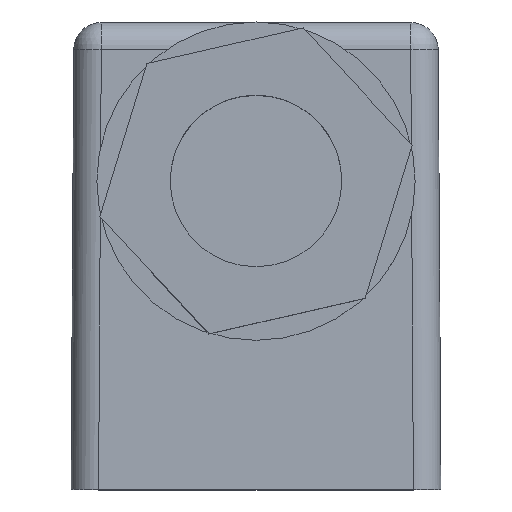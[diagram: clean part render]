
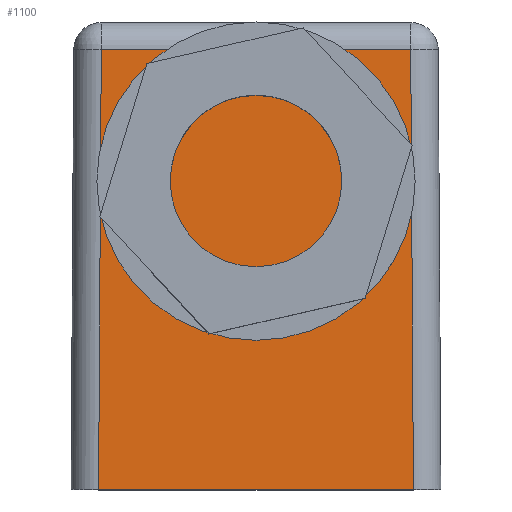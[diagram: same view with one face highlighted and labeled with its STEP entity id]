
A CAD part, top view. The second image highlights one B-rep face of the part: STEP entity #1100.
In plain terms, the highlighted planar face has unit normal (0, 0.006, 1).
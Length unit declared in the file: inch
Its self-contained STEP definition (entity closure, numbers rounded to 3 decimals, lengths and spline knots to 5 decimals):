
#314 = LINE ( 'NONE', #8448, #316 ) ;
#316 = VECTOR ( 'NONE', #8443, 39.37008 ) ;
#324 = LINE ( 'NONE', #8712, #343 ) ;
#338 = VECTOR ( 'NONE', #8709, 39.37008 ) ;
#340 = LINE ( 'NONE', #8707, #338 ) ;
#341 = VECTOR ( 'NONE', #8711, 39.37008 ) ;
#343 = VECTOR ( 'NONE', #8713, 39.37008 ) ;
#347 = LINE ( 'NONE', #8710, #341 ) ;
#1100 = ADVANCED_FACE ( 'NONE', ( #6257 ), #6367, .T. ) ;
#2976 = EDGE_CURVE ( 'NONE', #3809, #3801, #314, .T. ) ;
#3797 = VERTEX_POINT ( 'NONE', #8658 ) ;
#3801 = VERTEX_POINT ( 'NONE', #8662 ) ;
#3808 = VERTEX_POINT ( 'NONE', #8669 ) ;
#3809 = VERTEX_POINT ( 'NONE', #8670 ) ;
#3830 = EDGE_LOOP ( 'NONE', ( #13802, #13807, #13801, #13805 ) ) ;
#5693 = AXIS2_PLACEMENT_3D ( 'NONE', #6376, #6377, #6378 ) ;
#6257 = FACE_OUTER_BOUND ( 'NONE', #3830, .T. ) ;
#6367 = PLANE ( 'NONE',  #5693 ) ;
#6376 = CARTESIAN_POINT ( 'NONE',  ( 0., 0., 0. ) ) ;
#6377 = DIRECTION ( 'NONE',  ( 0., 0.006, 1. ) ) ;
#6378 = DIRECTION ( 'NONE',  ( 0., -1., 0.006 ) ) ;
#8443 = DIRECTION ( 'NONE',  ( -0.006, 1., -0.006 ) ) ;
#8448 = CARTESIAN_POINT ( 'NONE',  ( 0.77747, 0.00475, -0.00003 ) ) ;
#8658 = CARTESIAN_POINT ( 'NONE',  ( 0.06859, 0.99788, -0.0061 ) ) ;
#8662 = CARTESIAN_POINT ( 'NONE',  ( 0.77141, 0.99788, -0.0061 ) ) ;
#8669 = CARTESIAN_POINT ( 'NONE',  ( 0.0625, 0., 0. ) ) ;
#8670 = CARTESIAN_POINT ( 'NONE',  ( 0.7775, 0., 0. ) ) ;
#8707 = CARTESIAN_POINT ( 'NONE',  ( 0., 0., 0. ) ) ;
#8709 = DIRECTION ( 'NONE',  ( 1., 0., 0. ) ) ;
#8710 = CARTESIAN_POINT ( 'NONE',  ( 0.0625, -0.00038, 0. ) ) ;
#8711 = DIRECTION ( 'NONE',  ( -0.006, -1., 0.006 ) ) ;
#8712 = CARTESIAN_POINT ( 'NONE',  ( 0., 0.99788, -0.0061 ) ) ;
#8713 = DIRECTION ( 'NONE',  ( -1., 0., 0. ) ) ;
#11456 = EDGE_CURVE ( 'NONE', #3808, #3809, #340, .T. ) ;
#11458 = EDGE_CURVE ( 'NONE', #3797, #3808, #347, .T. ) ;
#11460 = EDGE_CURVE ( 'NONE', #3801, #3797, #324, .T. ) ;
#13801 = ORIENTED_EDGE ( 'NONE', *, *, #11456, .T. ) ;
#13802 = ORIENTED_EDGE ( 'NONE', *, *, #11460, .T. ) ;
#13805 = ORIENTED_EDGE ( 'NONE', *, *, #2976, .T. ) ;
#13807 = ORIENTED_EDGE ( 'NONE', *, *, #11458, .T. ) ;
